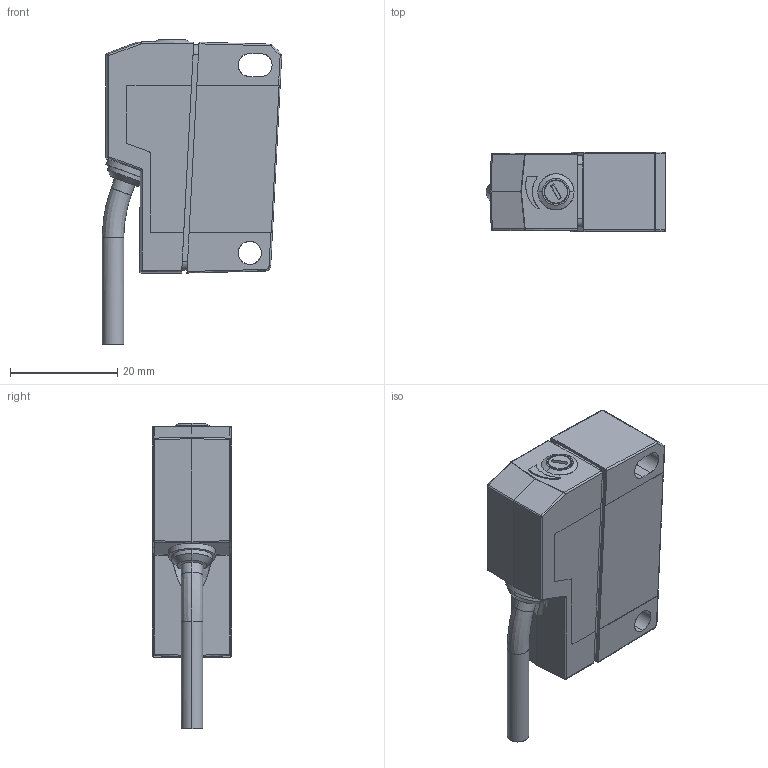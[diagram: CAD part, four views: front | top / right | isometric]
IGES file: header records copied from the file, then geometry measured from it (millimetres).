
Start section: Comment
Global section: file name: xxDK_14_MultiTurn_Kabel.igs; native system:  By UGS Corp.; preprocessor: XPlus GENERIC/IGES 3.0; author: Author; organization: Title; date: 20090513.111353; units: millimetre
Bounding box: 33.43 x 14.8 x 56.99 mm (x, y, z)
Surface area: 5438.1 mm2 (no closed solid volume)
Topology: 0 solids, 0 shells, 155 faces, 740 edges, 738 vertices
Faces by surface type: bspline 155
